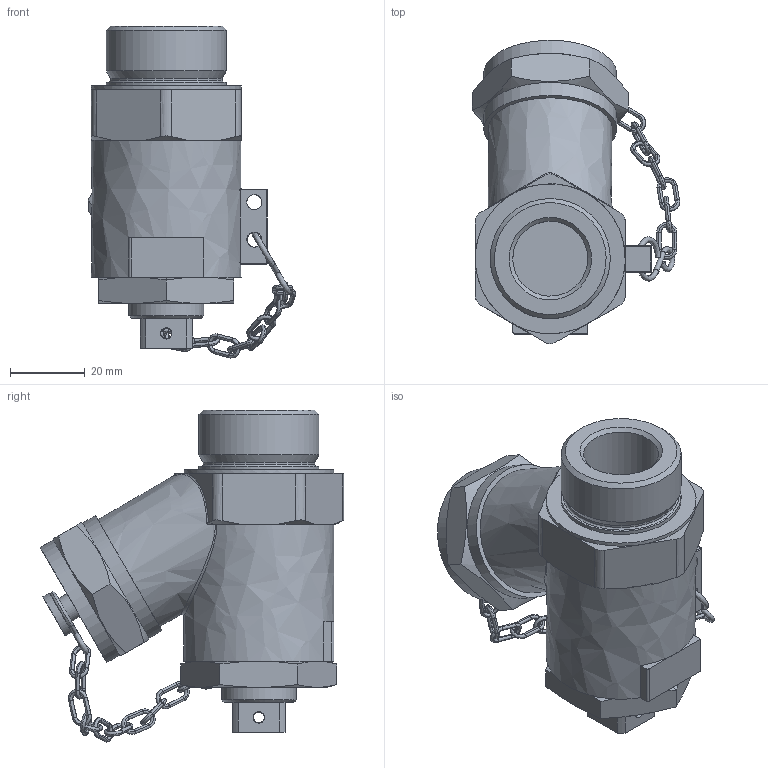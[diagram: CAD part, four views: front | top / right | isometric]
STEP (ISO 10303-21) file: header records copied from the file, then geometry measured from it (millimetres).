
FILE_DESCRIPTION((''),'2;1');
FILE_NAME('U:\Users\r.stiegele\12567800(327331)_1.stp', '2013-10-14T13:02:23',('User'),('SDRC'),'I-DEAS Master Series 9','UNIX', 'Yes');
FILE_SCHEMA(('AUTOMOTIVE_DESIGN { 1 0 10303 214 1 1 1 1 }'));
Length unit declared in the file: millimetre
Products named in the file (1): 12567800(327331)
Bounding box: 55.29 x 80.92 x 88.56 mm (x, y, z)
Volume: 120277.1 mm3; surface area: 20438.3 mm2
Topology: 4 solids, 4 shells, 360 faces, 843 edges, 480 vertices
Faces by surface type: bspline 360
Entity records: 13945 total; most frequent: CARTESIAN_POINT 9335, ORIENTED_EDGE 1668, EDGE_CURVE 834, VERTEX_POINT 467, EDGE_LOOP 381, FACE_OUTER_BOUND 360, ADVANCED_FACE 360, B_SPLINE_CURVE_WITH_KNOTS 260
